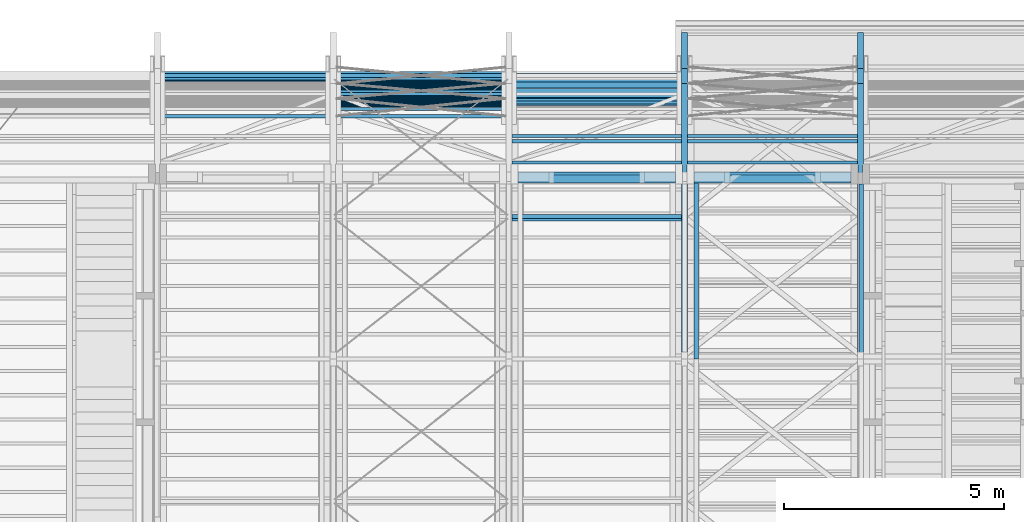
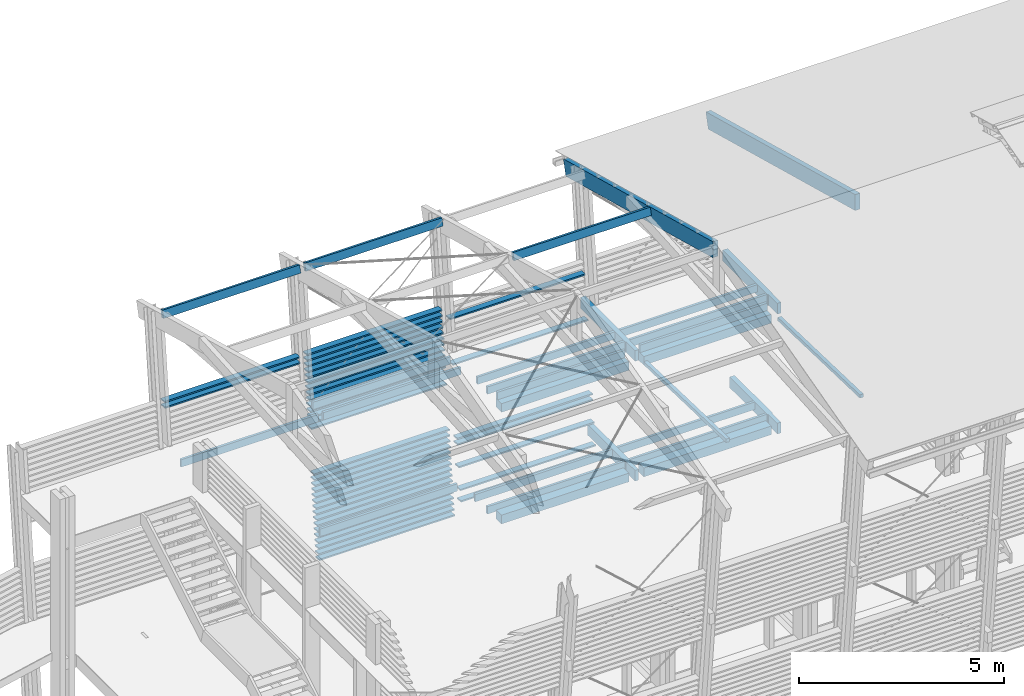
# One storey, part 13 of 48: 68 beams.
"""IFC2X3 building model written with IfcOpenShell, lengths in metres."""

from ifc_helpers import new_model, si_unit, direction, frame, origin_with_axes, place, context, subcontext, project, spatial, faceted_brep, material, element, save


model = new_model("IFC2X3")

# Units and contexts
model_context = context("Model", 3, precision=1e-06, world=origin_with_axes(), true_north=direction((0.0, 1.0, 0.0)))
body_context = subcontext(model_context, "Body", "Model", "MODEL_VIEW")
ifc_project = project(units=[si_unit("LENGTHUNIT", "METRE"), si_unit("AREAUNIT", "SQUARE_METRE"), si_unit("VOLUMEUNIT", "CUBIC_METRE"), si_unit("PLANEANGLEUNIT", "RADIAN")], contexts=[model_context])

# Site, building, storey
site_placement = place(None, origin_with_axes())
site = spatial("IfcSite", under=ifc_project, at=site_placement, CompositionType="ELEMENT")
building_placement = place(site_placement, origin_with_axes())
building = spatial("IfcBuilding", under=site, at=building_placement, Name="Building 1", CompositionType="ELEMENT")
storey_placement = place(building_placement, origin_with_axes())
storey = spatial("IfcBuildingStorey", under=building, at=storey_placement, Name="Storey 1", CompositionType="ELEMENT", Elevation=0.0)

# Beams
ifc_material_1 = material(Name="Moabi")
beam_1_placement = place(storey_placement, frame((33.3927439, -183.2886212, 4.0547563), z_axis=(0.0, -0.9945219, 0.1045285), x_axis=(-1.0, 0.0, 0.0)))
element("IfcBeam", 1, at=beam_1_placement, inside=storey, material=ifc_material_1, Name="garde corp", context=body_context, shape_type="Brep", body=[
    faceted_brep([(3.8048051, -0.02, 0.1), (3.8048051, 0.02, 0.1), (0.0, 0.02, 0.1), (0.0, -0.02, 0.1), (3.8048051, 0.02, -0.1), (0.0, 0.02, -0.1), (3.8048051, -0.02, -0.1), (0.0, -0.02, -0.1)], [[[0, 1, 2, 3]], [[1, 4, 5, 2]], [[4, 6, 7, 5]], [[6, 0, 3, 7]], [[1, 0, 6, 4]], [[7, 3, 2, 5]]]),
])
beam_2_placement = place(storey_placement, frame((37.3927439, -183.1715493, 5.1686208), z_axis=(0.0, -0.9945219, 0.1045285), x_axis=(-1.0, 0.0, 0.0)))
element("IfcBeam", 2, at=beam_2_placement, inside=storey, material=ifc_material_1, Name="garde corp", context=body_context, shape_type="Brep", body=[
    faceted_brep([(3.8048053, -0.02, 0.1), (3.8048053, 0.02, 0.1), (0.0, 0.02, 0.1), (0.0, -0.02, 0.1), (3.8048051, 0.02, -0.1), (0.0, 0.02, -0.1), (3.8048053, -0.02, -0.1), (0.0, -0.02, -0.1)], [[[0, 1, 2, 3]], [[1, 4, 5, 2]], [[4, 6, 7, 5]], [[6, 0, 3, 7]], [[1, 0, 6, 4]], [[7, 3, 2, 5]]]),
])
beam_3_placement = place(storey_placement, frame((37.3927439, -183.2384475, 4.5321268), z_axis=(0.0, -0.9945219, 0.1045285), x_axis=(-1.0, 0.0, 0.0)))
element("IfcBeam", 3, at=beam_3_placement, inside=storey, material=ifc_material_1, Name="garde corp", context=body_context, shape_type="Brep", body=[
    faceted_brep([(3.8047077, -0.02, 0.1), (3.8047077, 0.02, 0.1), (0.0, 0.02, 0.1), (0.0, -0.02, 0.1), (3.8047077, 0.02, -0.1), (0.0, 0.02, -0.1), (3.8047077, -0.02, -0.1), (0.0, -0.02, -0.1)], [[[0, 1, 2, 3]], [[1, 4, 5, 2]], [[4, 6, 7, 5]], [[6, 0, 3, 7]], [[1, 0, 6, 4]], [[7, 3, 2, 5]]]),
])
for number, where, z_axis, x_axis, name in (
    (4, (33.3927441, -182.920681, 7.5554733), (0.0, -0.9945219, 0.1045285), (-1.0, 0.0, 0.0), "garde corp"),
    (5, (33.3927441, -182.9875792, 6.9189793), (0.0, -0.9945219, 0.1045285), (-1.0, 0.0, 0.0), "garde corp"),
):
    element("IfcBeam", number, at=place(storey_placement, frame(where, z_axis=z_axis, x_axis=x_axis)), inside=storey, material=ifc_material_1, Name=name, context=body_context, shape_type="Brep", body=[
        faceted_brep([(3.806, -0.02, 0.1), (3.806, 0.02, 0.1), (0.0, 0.02, 0.1), (0.0, -0.02, 0.1), (3.806, 0.02, -0.1), (0.0, 0.02, -0.1), (3.806, -0.02, -0.1), (0.0, -0.02, -0.1)], [[[0, 1, 2, 3]], [[1, 4, 5, 2]], [[4, 6, 7, 5]], [[6, 0, 3, 7]], [[1, 0, 6, 4]], [[7, 3, 2, 5]]]),
    ])
beam_4_placement = place(storey_placement, frame((33.3927439, -183.221723, 4.6912503), z_axis=(0.0, -0.9945219, 0.1045285), x_axis=(-1.0, 0.0, 0.0)))
element("IfcBeam", 6, at=beam_4_placement, inside=storey, material=ifc_material_1, Name="garde corp", context=body_context, shape_type="Brep", body=[
    faceted_brep([(3.8047071, -0.02, 0.1), (3.8047079, 0.02, 0.1), (0.0, 0.02, 0.1), (0.0, -0.02, 0.1), (3.8047071, 0.02, -0.1), (0.0, 0.02, -0.1), (3.8047071, -0.02, -0.1), (0.0, -0.02, -0.1)], [[[0, 1, 2, 3]], [[1, 4, 5, 2]], [[4, 6, 7, 5]], [[6, 0, 3, 7]], [[1, 0, 6, 4]], [[7, 3, 2, 5]]]),
])
ifc_material_2 = material(Name="GL28h")
beam_5_placement = place(storey_placement, frame((33.5597433, -185.9913803, 12.4354756), z_axis=(0.0, 0.258819, 0.9659258), x_axis=(1.0, 0.0, 0.0)))
element("IfcBeam", 7, at=beam_5_placement, inside=storey, material=ifc_material_2, Name="Buton", context=body_context, shape_type="Brep", body=[
    faceted_brep([(3.8600004, -0.045, 0.11), (3.8600004, 0.045, 0.11), (0.0, 0.045, 0.11), (0.0, -0.045, 0.11), (3.8600004, -0.045, -0.11), (0.0, -0.045, -0.11), (3.8600004, 0.045, -0.11), (0.0, 0.045, -0.11)], [[[0, 1, 2, 3]], [[4, 0, 3, 5]], [[6, 4, 5, 7]], [[1, 6, 7, 2]], [[1, 0, 4, 6]], [[2, 7, 5, 3]]]),
])
beam_6_placement = place(storey_placement, frame((37.3927439, -183.3387948, 3.5773858), z_axis=(0.0, -0.9945219, 0.1045285), x_axis=(-1.0, 0.0, 0.0)))
element("IfcBeam", 8, at=beam_6_placement, inside=storey, material=ifc_material_1, Name="garde corp", context=body_context, shape_type="Brep", body=[
    faceted_brep([(3.8047077, -0.02, 0.1), (3.8047077, 0.02, 0.1), (0.0, 0.02, 0.1), (0.0, -0.02, 0.1), (3.8047077, 0.02, -0.1), (0.0, 0.02, -0.1), (3.8047077, -0.02, -0.1), (0.0, -0.02, -0.1)], [[[0, 1, 2, 3]], [[1, 4, 5, 2]], [[4, 6, 7, 5]], [[6, 0, 3, 7]], [[1, 0, 6, 4]], [[7, 3, 2, 5]]]),
])
beam_7_placement = place(storey_placement, frame((33.5597437, -184.1344693, 4.139), z_axis=(0.0, 0.0, 1.0), x_axis=(1.0, 0.0, 0.0)))
element("IfcBeam", 9, at=beam_7_placement, inside=storey, material=ifc_material_2, Name="Solive", context=body_context, shape_type="Brep", body=[
    faceted_brep([(3.86, 0.035, 0.11), (3.86, 0.035, -0.11), (0.0, 0.035, -0.11), (0.0, 0.035, 0.11), (3.86, -0.035, -0.11), (0.0, -0.035, -0.11), (3.86, -0.035, 0.11), (0.0, -0.035, 0.11)], [[[0, 1, 2, 3]], [[1, 4, 5, 2]], [[4, 6, 7, 5]], [[6, 0, 3, 7]], [[1, 0, 6, 4]], [[7, 3, 2, 5]]]),
])
beam_8_placement = place(storey_placement, frame((33.3927439, -183.3220703, 3.7365093), z_axis=(0.0, -0.9945219, 0.1045285), x_axis=(-1.0, 0.0, 0.0)))
element("IfcBeam", 10, at=beam_8_placement, inside=storey, material=ifc_material_1, Name="garde corp", context=body_context, shape_type="Brep", body=[
    faceted_brep([(3.8047073, -0.02, 0.1), (3.8047077, 0.02, 0.1), (0.0, 0.02, 0.1), (0.0, -0.02, 0.1), (3.8047077, 0.02, -0.1), (0.0, 0.02, -0.1), (3.8047077, -0.02, -0.1), (0.0, -0.02, -0.1)], [[[0, 1, 2, 3]], [[1, 4, 5, 2]], [[4, 6, 7, 5]], [[6, 0, 3, 7]], [[1, 0, 6, 4]], [[7, 3, 2, 5]]]),
])
beam_9_placement = place(storey_placement, frame((33.3927439, -183.2384475, 4.5321268), z_axis=(0.0, -0.9945219, 0.1045285), x_axis=(-1.0, 0.0, 0.0)))
element("IfcBeam", 11, at=beam_9_placement, inside=storey, material=ifc_material_1, Name="garde corp", context=body_context, shape_type="Brep", body=[
    faceted_brep([(3.8047077, -0.02, 0.1), (3.8047077, 0.02, 0.1), (0.0, 0.02, 0.1), (0.0, -0.02, 0.1), (3.8047077, 0.02, -0.1), (0.0, 0.02, -0.1), (3.8047077, -0.02, -0.1), (0.0, -0.02, -0.1)], [[[0, 1, 2, 3]], [[1, 4, 5, 2]], [[4, 6, 7, 5]], [[6, 0, 3, 7]], [[1, 0, 6, 4]], [[7, 3, 2, 5]]]),
])
beam_10_placement = place(storey_placement, frame((33.3927439, -183.2551721, 4.3730033), z_axis=(0.0, -0.9945219, 0.1045285), x_axis=(-1.0, 0.0, 0.0)))
element("IfcBeam", 12, at=beam_10_placement, inside=storey, material=ifc_material_1, Name="garde corp", context=body_context, shape_type="Brep", body=[
    faceted_brep([(3.8048051, -0.02, 0.1), (3.8048051, 0.02, 0.1), (0.0, 0.02, 0.1), (0.0, -0.02, 0.1), (3.8048051, 0.02, -0.1), (0.0, 0.02, -0.1), (3.8048051, -0.02, -0.1), (0.0, -0.02, -0.1)], [[[0, 1, 2, 3]], [[1, 4, 5, 2]], [[4, 6, 7, 5]], [[6, 0, 3, 7]], [[1, 0, 6, 4]], [[7, 3, 2, 5]]]),
])
beam_11_placement = place(storey_placement, frame((33.3927439, -183.1715493, 5.1686208), z_axis=(0.0, -0.9945219, 0.1045285), x_axis=(-1.0, 0.0, 0.0)))
element("IfcBeam", 13, at=beam_11_placement, inside=storey, material=ifc_material_1, Name="garde corp", context=body_context, shape_type="Brep", body=[
    faceted_brep([(3.8048053, -0.02, 0.1), (3.8048053, 0.02, 0.1), (0.0, 0.02, 0.1), (0.0, -0.02, 0.1), (3.8048051, 0.02, -0.1), (0.0, 0.02, -0.1), (3.8048053, -0.02, -0.1), (0.0, -0.02, -0.1)], [[[0, 1, 2, 3]], [[1, 4, 5, 2]], [[4, 6, 7, 5]], [[6, 0, 3, 7]], [[1, 0, 6, 4]], [[7, 3, 2, 5]]]),
])
beam_12_placement = place(storey_placement, frame((29.3927441, -182.7868846, 8.8284614), z_axis=(0.0, -0.9945219, 0.1045285), x_axis=(-1.0, 0.0, 0.0)))
element("IfcBeam", 14, at=beam_12_placement, inside=storey, material=ifc_material_1, Name="garde corp", context=body_context, shape_type="Brep", body=[
    faceted_brep([(3.806, -0.02, 0.1), (3.806, 0.02, 0.1), (0.0, 0.02, 0.1), (0.0, -0.02, 0.1), (3.806, 0.02, -0.1), (0.0, 0.02, -0.1), (3.806, -0.02, -0.1), (0.0, -0.02, -0.1)], [[[0, 1, 2, 3]], [[1, 4, 5, 2]], [[4, 6, 7, 5]], [[6, 0, 3, 7]], [[1, 0, 6, 4]], [[7, 3, 2, 5]]]),
])
beam_13_placement = place(storey_placement, frame((33.3927439, -183.3387948, 3.5773858), z_axis=(0.0, -0.9945219, 0.1045285), x_axis=(-1.0, 0.0, 0.0)))
element("IfcBeam", 15, at=beam_13_placement, inside=storey, material=ifc_material_1, Name="garde corp", context=body_context, shape_type="Brep", body=[
    faceted_brep([(3.8047077, -0.02, 0.1), (3.8047077, 0.02, 0.1), (0.0, 0.02, 0.1), (0.0, -0.02, 0.1), (3.8047077, 0.02, -0.1), (0.0, 0.02, -0.1), (3.8047077, -0.02, -0.1), (0.0, -0.02, -0.1)], [[[0, 1, 2, 3]], [[1, 4, 5, 2]], [[4, 6, 7, 5]], [[6, 0, 3, 7]], [[1, 0, 6, 4]], [[7, 3, 2, 5]]]),
])
beam_14_placement = place(storey_placement, frame((33.3927439, -183.3053457, 3.8956328), z_axis=(0.0, -0.9945219, 0.1045285), x_axis=(-1.0, 0.0, 0.0)))
element("IfcBeam", 16, at=beam_14_placement, inside=storey, material=ifc_material_1, Name="garde corp", context=body_context, shape_type="Brep", body=[
    faceted_brep([(3.8047073, -0.02, 0.1), (3.8047075, 0.02, 0.1), (0.0, 0.02, 0.1), (0.0, -0.02, 0.1), (3.8047077, 0.02, -0.1), (0.0, 0.02, -0.1), (3.8047077, -0.02, -0.1), (0.0, -0.02, -0.1)], [[[0, 1, 2, 3]], [[1, 4, 5, 2]], [[4, 6, 7, 5]], [[6, 0, 3, 7]], [[1, 0, 6, 4]], [[7, 3, 2, 5]]]),
])
beam_15_placement = place(storey_placement, frame((33.3927439, -183.1548247, 5.3277443), z_axis=(0.0, -0.9945219, 0.1045285), x_axis=(-1.0, 0.0, 0.0)))
element("IfcBeam", 17, at=beam_15_placement, inside=storey, material=ifc_material_1, Name="garde corp", context=body_context, shape_type="Brep", body=[
    faceted_brep([(3.8048053, -0.02, 0.1), (3.8048053, 0.02, 0.1), (0.0, 0.02, 0.1), (0.0, -0.02, 0.1), (3.8048051, 0.02, -0.1), (0.0, 0.02, -0.1), (3.8048053, -0.02, -0.1), (0.0, -0.02, -0.1)], [[[0, 1, 2, 3]], [[1, 4, 5, 2]], [[4, 6, 7, 5]], [[6, 0, 3, 7]], [[1, 0, 6, 4]], [[7, 3, 2, 5]]]),
])
beam_16_placement = place(storey_placement, frame((33.3927441, -182.7868846, 8.8284614), z_axis=(0.0, -0.9945219, 0.1045285), x_axis=(-1.0, 0.0, 0.0)))
element("IfcBeam", 18, at=beam_16_placement, inside=storey, material=ifc_material_1, Name="garde corp", context=body_context, shape_type="Brep", body=[
    faceted_brep([(3.806, -0.02, 0.1), (3.806, 0.02, 0.1), (0.0, 0.02, 0.1), (0.0, -0.02, 0.1), (3.806, 0.02, -0.1), (0.0, 0.02, -0.1), (3.806, -0.02, -0.1), (0.0, -0.02, -0.1)], [[[0, 1, 2, 3]], [[1, 4, 5, 2]], [[4, 6, 7, 5]], [[6, 0, 3, 7]], [[1, 0, 6, 4]], [[7, 3, 2, 5]]]),
])
beam_17_placement = place(storey_placement, frame((33.3927439, -183.3722439, 3.2591388), z_axis=(0.0, -0.9945219, 0.1045285), x_axis=(-1.0, 0.0, 0.0)))
element("IfcBeam", 19, at=beam_17_placement, inside=storey, material=ifc_material_1, Name="garde corp", context=body_context, shape_type="Brep", body=[
    faceted_brep([(3.8048051, -0.02, 0.1), (3.8048051, 0.02, 0.1), (0.0, 0.02, 0.1), (0.0, -0.02, 0.1), (3.8048051, 0.02, -0.1), (0.0, 0.02, -0.1), (3.8048051, -0.02, -0.1), (0.0, -0.02, -0.1)], [[[0, 1, 2, 3]], [[1, 4, 5, 2]], [[4, 6, 7, 5]], [[6, 0, 3, 7]], [[1, 0, 6, 4]], [[7, 3, 2, 5]]]),
])
beam_18_placement = place(storey_placement, frame((33.3927441, -182.8203337, 8.5102144), z_axis=(0.0, -0.9945219, 0.1045285), x_axis=(-1.0, 0.0, 0.0)))
element("IfcBeam", 20, at=beam_18_placement, inside=storey, material=ifc_material_1, Name="garde corp", context=body_context, shape_type="Brep", body=[
    faceted_brep([(3.806, -0.02, 0.1), (3.806, 0.02, 0.1), (0.0, 0.02, 0.1), (0.0, -0.02, 0.1), (3.806, 0.02, -0.1), (0.0, 0.02, -0.1), (3.806, -0.02, -0.1), (0.0, -0.02, -0.1)], [[[0, 1, 2, 3]], [[1, 4, 5, 2]], [[4, 6, 7, 5]], [[6, 0, 3, 7]], [[1, 0, 6, 4]], [[7, 3, 2, 5]]]),
])
beam_19_placement = place(storey_placement, frame((33.3927439, -183.2049984, 4.8503738), z_axis=(0.0, -0.9945219, 0.1045285), x_axis=(-1.0, 0.0, 0.0)))
element("IfcBeam", 21, at=beam_19_placement, inside=storey, material=ifc_material_1, Name="garde corp", context=body_context, shape_type="Brep", body=[
    faceted_brep([(3.8048053, -0.02, 0.1), (3.8048053, 0.02, 0.1), (0.0, 0.02, 0.1), (0.0, -0.02, 0.1), (3.8048051, 0.02, -0.1), (0.0, 0.02, -0.1), (3.8048053, -0.02, -0.1), (0.0, -0.02, -0.1)], [[[0, 1, 2, 3]], [[1, 4, 5, 2]], [[4, 6, 7, 5]], [[6, 0, 3, 7]], [[1, 0, 6, 4]], [[7, 3, 2, 5]]]),
])
beam_20_placement = place(storey_placement, frame((29.3927437, -182.77016, 8.9875849), z_axis=(0.0, -0.9945219, 0.1045285), x_axis=(-1.0, 0.0, 0.0)))
element("IfcBeam", 22, at=beam_20_placement, inside=storey, material=ifc_material_1, Name="garde corp", context=body_context, shape_type="Brep", body=[
    faceted_brep([(3.806, -0.02, 0.1), (3.806, 0.02, 0.1), (0.0, 0.02, 0.1), (0.0, -0.02, 0.1), (3.806, 0.02, -0.1), (0.0, 0.02, -0.1), (3.806, -0.02, -0.1), (0.0, -0.02, -0.1)], [[[0, 1, 2, 3]], [[1, 4, 5, 2]], [[4, 6, 7, 5]], [[6, 0, 3, 7]], [[1, 0, 6, 4]], [[7, 3, 2, 5]]]),
])
beam_21_placement = place(storey_placement, frame((33.3927439, -183.1882738, 5.0094973), z_axis=(0.0, -0.9945219, 0.1045285), x_axis=(-1.0, 0.0, 0.0)))
element("IfcBeam", 23, at=beam_21_placement, inside=storey, material=ifc_material_1, Name="garde corp", context=body_context, shape_type="Brep", body=[
    faceted_brep([(3.8047077, -0.02, 0.1), (3.8047077, 0.02, 0.1), (0.0, 0.02, 0.1), (0.0, -0.02, 0.1), (3.8047077, 0.02, -0.1), (0.0, 0.02, -0.1), (3.8047077, -0.02, -0.1), (0.0, -0.02, -0.1)], [[[0, 1, 2, 3]], [[1, 4, 5, 2]], [[4, 6, 7, 5]], [[6, 0, 3, 7]], [[1, 0, 6, 4]], [[7, 3, 2, 5]]]),
])
beam_22_placement = place(storey_placement, frame((33.3927439, -183.3555194, 3.4182623), z_axis=(0.0, -0.9945219, 0.1045285), x_axis=(-1.0, 0.0, 0.0)))
element("IfcBeam", 24, at=beam_22_placement, inside=storey, material=ifc_material_1, Name="garde corp", context=body_context, shape_type="Brep", body=[
    faceted_brep([(3.8047073, -0.02, 0.1), (3.8047077, 0.02, 0.1), (0.0, 0.02, 0.1), (0.0, -0.02, 0.1), (3.8047077, 0.02, -0.1), (0.0, 0.02, -0.1), (3.8047077, -0.02, -0.1), (0.0, -0.02, -0.1)], [[[0, 1, 2, 3]], [[1, 4, 5, 2]], [[4, 6, 7, 5]], [[6, 0, 3, 7]], [[1, 0, 6, 4]], [[7, 3, 2, 5]]]),
])
beam_23_placement = place(storey_placement, frame((37.3927439, -183.3053457, 3.8956328), z_axis=(0.0, -0.9945219, 0.1045285), x_axis=(-1.0, 0.0, 0.0)))
element("IfcBeam", 25, at=beam_23_placement, inside=storey, material=ifc_material_1, Name="garde corp", context=body_context, shape_type="Brep", body=[
    faceted_brep([(3.8047073, -0.02, 0.1), (3.8047075, 0.02, 0.1), (0.0, 0.02, 0.1), (0.0, -0.02, 0.1), (3.8047077, 0.02, -0.1), (0.0, 0.02, -0.1), (3.8047077, -0.02, -0.1), (0.0, -0.02, -0.1)], [[[0, 1, 2, 3]], [[1, 4, 5, 2]], [[4, 6, 7, 5]], [[6, 0, 3, 7]], [[1, 0, 6, 4]], [[7, 3, 2, 5]]]),
])
for number, where, z_axis, x_axis, name in (
    (26, (37.3927437, -182.8036091, 8.6693379), (0.0, -0.9945219, 0.1045285), (-1.0, 0.0, 0.0), "garde corp"),
    (27, (37.3927441, -182.9374055, 7.3963498), (0.0, -0.9945219, 0.1045285), (-1.0, 0.0, 0.0), "garde corp"),
):
    element("IfcBeam", number, at=place(storey_placement, frame(where, z_axis=z_axis, x_axis=x_axis)), inside=storey, material=ifc_material_1, Name=name, context=body_context, shape_type="Brep", body=[
        faceted_brep([(3.806, -0.02, 0.1), (3.806, 0.02, 0.1), (0.0, 0.02, 0.1), (0.0, -0.02, 0.1), (3.806, 0.02, -0.1), (0.0, 0.02, -0.1), (3.806, -0.02, -0.1), (0.0, -0.02, -0.1)], [[[0, 1, 2, 3]], [[1, 4, 5, 2]], [[4, 6, 7, 5]], [[6, 0, 3, 7]], [[1, 0, 6, 4]], [[7, 3, 2, 5]]]),
    ])
beam_24_placement = place(storey_placement, frame((37.3927439, -183.1548247, 5.3277443), z_axis=(0.0, -0.9945219, 0.1045285), x_axis=(-1.0, 0.0, 0.0)))
element("IfcBeam", 28, at=beam_24_placement, inside=storey, material=ifc_material_1, Name="garde corp", context=body_context, shape_type="Brep", body=[
    faceted_brep([(3.8048053, -0.02, 0.1), (3.8048053, 0.02, 0.1), (0.0, 0.02, 0.1), (0.0, -0.02, 0.1), (3.8048051, 0.02, -0.1), (0.0, 0.02, -0.1), (3.8048053, -0.02, -0.1), (0.0, -0.02, -0.1)], [[[0, 1, 2, 3]], [[1, 4, 5, 2]], [[4, 6, 7, 5]], [[6, 0, 3, 7]], [[1, 0, 6, 4]], [[7, 3, 2, 5]]]),
])
beam_25_placement = place(storey_placement, frame((37.6997437, -185.0764881, 7.4), z_axis=(0.0, 0.0, 1.0), x_axis=(1.0, 0.0, 0.0)))
element("IfcBeam", 29, at=beam_25_placement, inside=storey, material=ifc_material_2, Name="Buton", context=body_context, shape_type="Brep", body=[
    faceted_brep([(0.0, 0.13, 0.13), (0.0, -0.13, 0.13), (3.58, -0.13, 0.13), (3.58, 0.13, 0.13), (0.0, -0.13, -0.13), (3.58, -0.13, -0.13), (0.0, 0.13, -0.13), (3.58, 0.13, -0.13)], [[[0, 1, 2, 3]], [[2, 1, 4, 5]], [[1, 0, 6, 4]], [[5, 4, 6, 7]], [[0, 3, 7, 6]], [[3, 2, 5, 7]]]),
])
beam_26_placement = place(storey_placement, frame((33.3927439, -183.1213756, 5.6459913), z_axis=(0.0, -0.9945219, 0.1045285), x_axis=(-1.0, 0.0, 0.0)))
element("IfcBeam", 30, at=beam_26_placement, inside=storey, material=ifc_material_1, Name="garde corp", context=body_context, shape_type="Brep", body=[
    faceted_brep([(3.8048053, -0.02, 0.1), (3.8048053, 0.02, 0.1), (0.0, 0.02, 0.1), (0.0, -0.02, 0.1), (3.8048051, 0.02, -0.1), (0.0, 0.02, -0.1), (3.8048053, -0.02, -0.1), (0.0, -0.02, -0.1)], [[[0, 1, 2, 3]], [[1, 4, 5, 2]], [[4, 6, 7, 5]], [[6, 0, 3, 7]], [[1, 0, 6, 4]], [[7, 3, 2, 5]]]),
])
for number, where, z_axis, x_axis, name in (
    (31, (33.3927441, -182.8370582, 8.3510909), (0.0, -0.9945219, 0.1045285), (-1.0, 0.0, 0.0), "garde corp"),
    (32, (33.3927441, -182.9708546, 7.0781028), (0.0, -0.9945219, 0.1045285), (-1.0, 0.0, 0.0), "garde corp"),
):
    element("IfcBeam", number, at=place(storey_placement, frame(where, z_axis=z_axis, x_axis=x_axis)), inside=storey, material=ifc_material_1, Name=name, context=body_context, shape_type="Brep", body=[
        faceted_brep([(3.806, -0.02, 0.1), (3.806, 0.02, 0.1), (0.0, 0.02, 0.1), (0.0, -0.02, 0.1), (3.806, 0.02, -0.1), (0.0, 0.02, -0.1), (3.806, -0.02, -0.1), (0.0, -0.02, -0.1)], [[[0, 1, 2, 3]], [[1, 4, 5, 2]], [[4, 6, 7, 5]], [[6, 0, 3, 7]], [[1, 0, 6, 4]], [[7, 3, 2, 5]]]),
    ])
beam_27_placement = place(storey_placement, frame((33.3927439, -183.2718966, 4.2138798), z_axis=(0.0, -0.9945219, 0.1045285), x_axis=(-1.0, 0.0, 0.0)))
element("IfcBeam", 33, at=beam_27_placement, inside=storey, material=ifc_material_1, Name="garde corp", context=body_context, shape_type="Brep", body=[
    faceted_brep([(3.8048051, -0.02, 0.1), (3.8048051, 0.02, 0.1), (0.0, 0.02, 0.1), (0.0, -0.02, 0.1), (3.8048051, 0.02, -0.1), (0.0, 0.02, -0.1), (3.8048051, -0.02, -0.1), (0.0, -0.02, -0.1)], [[[0, 1, 2, 3]], [[1, 4, 5, 2]], [[4, 6, 7, 5]], [[6, 0, 3, 7]], [[1, 0, 6, 4]], [[7, 3, 2, 5]]]),
])
beam_28_placement = place(storey_placement, frame((33.3927441, -182.9374055, 7.3963498), z_axis=(0.0, -0.9945219, 0.1045285), x_axis=(-1.0, 0.0, 0.0)))
element("IfcBeam", 34, at=beam_28_placement, inside=storey, material=ifc_material_1, Name="garde corp", context=body_context, shape_type="Brep", body=[
    faceted_brep([(3.806, -0.02, 0.1), (3.806, 0.02, 0.1), (0.0, 0.02, 0.1), (0.0, -0.02, 0.1), (3.806, 0.02, -0.1), (0.0, 0.02, -0.1), (3.806, -0.02, -0.1), (0.0, -0.02, -0.1)], [[[0, 1, 2, 3]], [[1, 4, 5, 2]], [[4, 6, 7, 5]], [[6, 0, 3, 7]], [[1, 0, 6, 4]], [[7, 3, 2, 5]]]),
])
beam_29_placement = place(storey_placement, frame((33.3927439, -183.1381002, 5.4868678), z_axis=(0.0, -0.9945219, 0.1045285), x_axis=(-1.0, 0.0, 0.0)))
element("IfcBeam", 35, at=beam_29_placement, inside=storey, material=ifc_material_1, Name="garde corp", context=body_context, shape_type="Brep", body=[
    faceted_brep([(3.8047071, -0.02, 0.1), (3.8047079, 0.02, 0.1), (0.0, 0.02, 0.1), (0.0, -0.02, 0.1), (3.8047077, 0.02, -0.1), (0.0, 0.02, -0.1), (3.8047071, -0.02, -0.1), (0.0, -0.02, -0.1)], [[[0, 1, 2, 3]], [[1, 4, 5, 2]], [[4, 6, 7, 5]], [[6, 0, 3, 7]], [[1, 0, 6, 4]], [[7, 3, 2, 5]]]),
])
for number, where, z_axis, x_axis, name in (
    (36, (33.3927441, -182.9541301, 7.2372263), (0.0, -0.9945219, 0.1045285), (-1.0, 0.0, 0.0), "garde corp"),
    (37, (33.3927437, -182.77016, 8.9875849), (0.0, -0.9945219, 0.1045285), (-1.0, 0.0, 0.0), "garde corp"),
    (38, (33.3927441, -182.8537828, 8.1919674), (0.0, -0.9945219, 0.1045285), (-1.0, 0.0, 0.0), "garde corp"),
    (39, (33.3927437, -182.8036091, 8.6693379), (0.0, -0.9945219, 0.1045285), (-1.0, 0.0, 0.0), "garde corp"),
    (40, (33.3927437, -182.8705073, 8.0328439), (0.0, -0.9945219, 0.1045285), (-1.0, 0.0, 0.0), "garde corp"),
    (41, (33.3927441, -182.8872319, 7.8737203), (0.0, -0.9945219, 0.1045285), (-1.0, 0.0, 0.0), "garde corp"),
):
    element("IfcBeam", number, at=place(storey_placement, frame(where, z_axis=z_axis, x_axis=x_axis)), inside=storey, material=ifc_material_1, Name=name, context=body_context, shape_type="Brep", body=[
        faceted_brep([(3.806, -0.02, 0.1), (3.806, 0.02, 0.1), (0.0, 0.02, 0.1), (0.0, -0.02, 0.1), (3.806, 0.02, -0.1), (0.0, 0.02, -0.1), (3.806, -0.02, -0.1), (0.0, -0.02, -0.1)], [[[0, 1, 2, 3]], [[1, 4, 5, 2]], [[4, 6, 7, 5]], [[6, 0, 3, 7]], [[1, 0, 6, 4]], [[7, 3, 2, 5]]]),
    ])
beam_30_placement = place(storey_placement, frame((37.5597437, -184.2514881, 7.699), z_axis=(0.0, 0.0, 1.0), x_axis=(1.0, 0.0, 0.0)))
element("IfcBeam", 42, at=beam_30_placement, inside=storey, material=ifc_material_2, Name="Solive", context=body_context, shape_type="Brep", body=[
    faceted_brep([(3.86, 0.035, 0.11), (3.86, 0.035, -0.11), (0.0, 0.035, -0.11), (0.0, 0.035, 0.11), (3.86, -0.035, -0.11), (0.0, -0.035, -0.11), (3.86, -0.035, 0.11), (0.0, -0.035, 0.11)], [[[0, 1, 2, 3]], [[1, 4, 5, 2]], [[4, 6, 7, 5]], [[6, 0, 3, 7]], [[1, 0, 6, 4]], [[7, 3, 2, 5]]]),
])
beam_31_placement = place(storey_placement, frame((33.3927441, -182.9039564, 7.7145968), z_axis=(0.0, -0.9945219, 0.1045285), x_axis=(-1.0, 0.0, 0.0)))
element("IfcBeam", 43, at=beam_31_placement, inside=storey, material=ifc_material_1, Name="garde corp", context=body_context, shape_type="Brep", body=[
    faceted_brep([(3.806, -0.02, 0.1), (3.806, 0.02, 0.1), (0.0, 0.02, 0.1), (0.0, -0.02, 0.1), (3.806, 0.02, -0.1), (0.0, 0.02, -0.1), (3.806, -0.02, -0.1), (0.0, -0.02, -0.1)], [[[0, 1, 2, 3]], [[1, 4, 5, 2]], [[4, 6, 7, 5]], [[6, 0, 3, 7]], [[1, 0, 6, 4]], [[7, 3, 2, 5]]]),
])
for number, where, z_axis, x_axis in (
    (44, (29.5597437, -183.1714881, 7.699), (0.0, 0.0, 1.0), (1.0, 0.0, 0.0)),
    (45, (29.5597437, -183.5174506, 4.139), (0.0, 0.0, 1.0), (1.0, 0.0, 0.0)),
    (46, (33.5597437, -184.2514881, 7.699), (0.0, 0.0, 1.0), (1.0, 0.0, 0.0)),
):
    element("IfcBeam", number, at=place(storey_placement, frame(where, z_axis=z_axis, x_axis=x_axis)), inside=storey, material=ifc_material_2, Name="Solive", context=body_context, shape_type="Brep", body=[
        faceted_brep([(3.86, 0.035, 0.11), (3.86, 0.035, -0.11), (0.0, 0.035, -0.11), (0.0, 0.035, 0.11), (3.86, -0.035, -0.11), (0.0, -0.035, -0.11), (3.86, -0.035, 0.11), (0.0, -0.035, 0.11)], [[[0, 1, 2, 3]], [[1, 4, 5, 2]], [[4, 6, 7, 5]], [[6, 0, 3, 7]], [[1, 0, 6, 4]], [[7, 3, 2, 5]]]),
    ])
beam_32_placement = place(storey_placement, frame((37.5596481, -184.7314881, 7.699), z_axis=(0.0, 0.0, 1.0), x_axis=(1.0, 0.0, 0.0)))
element("IfcBeam", 47, at=beam_32_placement, inside=storey, material=ifc_material_2, Name="Solive", context=body_context, shape_type="Brep", body=[
    faceted_brep([(3.8600004, -0.035, -0.11), (3.8600956, 0.035, -0.11), (3.8600956, 0.035, 0.11), (3.8600004, -0.035, 0.11), (0.0, 0.035, -0.11), (0.0, 0.035, 0.11), (0.0, -0.035, -0.11), (0.0, -0.035, 0.11)], [[[0, 1, 2, 3]], [[2, 1, 4, 5]], [[1, 0, 6, 4]], [[0, 3, 7, 6]], [[3, 2, 5, 7]], [[7, 5, 4, 6]]]),
])
beam_33_placement = place(storey_placement, frame((29.5597433, -183.6814881, 7.699), z_axis=(0.0, 0.0, 1.0), x_axis=(1.0, 0.0, 0.0)))
element("IfcBeam", 48, at=beam_33_placement, inside=storey, material=ifc_material_2, Name="Solive", context=body_context, shape_type="Brep", body=[
    faceted_brep([(3.8600004, -0.035, -0.11), (3.8600004, 0.035, -0.11), (3.8600004, 0.035, 0.11), (3.8600004, -0.035, 0.11), (0.0, 0.035, -0.11), (0.0, 0.035, 0.11), (0.0, -0.035, -0.11), (0.0, -0.035, 0.11)], [[[0, 1, 2, 3]], [[2, 1, 4, 5]], [[1, 0, 6, 4]], [[0, 3, 7, 6]], [[3, 2, 5, 7]], [[7, 5, 4, 6]]]),
])
for number, where, z_axis, x_axis in (
    (49, (37.6997437, -185.0764881, 4.085), (0.0, 0.0, 1.0), (1.0, 0.0, 0.0)),
    (50, (33.6997437, -185.0764881, 4.085), (0.0, 0.0, 1.0), (1.0, 0.0, 0.0)),
):
    element("IfcBeam", number, at=place(storey_placement, frame(where, z_axis=z_axis, x_axis=x_axis)), inside=storey, material=ifc_material_2, Name="Buton", context=body_context, shape_type="Brep", body=[
        faceted_brep([(0.0, 0.13, 0.13), (0.0, -0.13, 0.13), (3.58, -0.13, 0.13), (3.58, 0.13, 0.13), (0.0, -0.13, -0.13), (3.58, -0.13, -0.13), (0.0, 0.13, -0.13), (3.58, 0.13, -0.13)], [[[0, 1, 2, 3]], [[2, 1, 4, 5]], [[1, 0, 6, 4]], [[5, 4, 6, 7]], [[0, 3, 7, 6]], [[3, 2, 5, 7]]]),
    ])
beam_34_placement = place(storey_placement, frame((37.7497437, -189.2095691, 7.4500014), z_axis=(0.0, 0.0299865, 0.9995503), x_axis=(0.0, 0.9995503, -0.0299865)))
element("IfcBeam", 51, at=beam_34_placement, inside=storey, material=ifc_material_2, Name="Sous-glace", context=body_context, shape_type="Brep", body=[
    faceted_brep([(0.0, -0.05, 0.05), (0.003, -0.05, -0.05), (4.006373, -0.05, -0.05), (4.003373, -0.05, 0.05), (4.003373, 0.05, 0.05), (0.0, 0.05, 0.05), (0.003, 0.05, -0.05), (4.006373, 0.05, -0.05)], [[[0, 1, 2, 3]], [[3, 4, 5, 0]], [[6, 5, 4, 7]], [[1, 6, 7, 2]], [[5, 6, 1, 0]], [[2, 7, 4, 3]]]),
])
beam_35_placement = place(storey_placement, frame((33.6997437, -184.9814881, 7.64), z_axis=(0.0, 0.0, 1.0), x_axis=(1.0, 0.0, 0.0)))
element("IfcBeam", 52, at=beam_35_placement, inside=storey, material=ifc_material_2, Name="Rive", context=body_context, shape_type="Brep", body=[
    faceted_brep([(0.0, -0.035, -0.11), (0.0, -0.035, 0.11), (0.0, 0.035, 0.11), (0.0, 0.035, -0.11), (3.58, 0.035, -0.11), (3.58, -0.035, -0.11), (3.58, -0.035, 0.11), (3.58, 0.035, 0.11)], [[[0, 1, 2, 3]], [[0, 3, 4, 5]], [[1, 0, 5, 6]], [[5, 4, 7, 6]], [[3, 2, 7, 4]], [[2, 1, 6, 7]]]),
])
beam_36_placement = place(storey_placement, frame((41.5097437, -189.2095691, 7.4500014), z_axis=(0.0, 0.0299865, 0.9995503), x_axis=(0.0, 0.9995503, -0.0299865)))
element("IfcBeam", 53, at=beam_36_placement, inside=storey, material=ifc_material_2, Name="Sous-glace", context=body_context, shape_type="Brep", body=[
    faceted_brep([(0.0, -0.05, 0.05), (0.003, -0.05, -0.05), (4.006373, -0.05, -0.05), (4.003373, -0.05, 0.05), (4.003373, 0.05, 0.05), (0.0, 0.05, 0.05), (0.003, 0.05, -0.05), (4.006373, 0.05, -0.05)], [[[0, 1, 2, 3]], [[3, 4, 5, 0]], [[6, 5, 4, 7]], [[1, 6, 7, 2]], [[5, 6, 1, 0]], [[2, 7, 4, 3]]]),
])
beam_37_placement = place(storey_placement, frame((33.6997437, -185.0764881, 7.4), z_axis=(0.0, 0.0, 1.0), x_axis=(1.0, 0.0, 0.0)))
element("IfcBeam", 54, at=beam_37_placement, inside=storey, material=ifc_material_2, Name="Buton", context=body_context, shape_type="Brep", body=[
    faceted_brep([(0.0, 0.13, 0.13), (0.0, -0.13, 0.13), (3.58, -0.13, 0.13), (3.58, 0.13, 0.13), (0.0, -0.13, -0.13), (3.58, -0.13, -0.13), (0.0, 0.13, -0.13), (3.58, 0.13, -0.13)], [[[0, 1, 2, 3]], [[2, 1, 4, 5]], [[1, 0, 6, 4]], [[5, 4, 6, 7]], [[0, 3, 7, 6]], [[3, 2, 5, 7]]]),
])
beam_38_placement = place(storey_placement, frame((37.6997437, -184.9814881, 7.64), z_axis=(0.0, 0.0, 1.0), x_axis=(1.0, 0.0, 0.0)))
element("IfcBeam", 55, at=beam_38_placement, inside=storey, material=ifc_material_2, Name="Rive", context=body_context, shape_type="Brep", body=[
    faceted_brep([(0.0, -0.035, -0.11), (0.0, -0.035, 0.11), (0.0, 0.035, 0.11), (0.0, 0.035, -0.11), (3.58, 0.035, -0.11), (3.58, -0.035, -0.11), (3.58, -0.035, 0.11), (3.58, 0.035, 0.11)], [[[0, 1, 2, 3]], [[0, 3, 4, 5]], [[1, 0, 5, 6]], [[5, 4, 7, 6]], [[3, 2, 7, 4]], [[2, 1, 6, 7]]]),
])
for number, where, z_axis, x_axis in (
    (56, (33.5597437, -184.7314881, 4.139), (0.0, 0.0, 1.0), (1.0, 0.0, 0.0)),
    (57, (37.5597437, -184.7314881, 4.139), (0.0, 0.0, 1.0), (1.0, 0.0, 0.0)),
):
    element("IfcBeam", number, at=place(storey_placement, frame(where, z_axis=z_axis, x_axis=x_axis)), inside=storey, material=ifc_material_2, Name="Solive", context=body_context, shape_type="Brep", body=[
        faceted_brep([(3.86, 0.035, 0.11), (3.86, 0.035, -0.11), (0.0, 0.035, -0.11), (0.0, 0.035, 0.11), (3.86, -0.035, -0.11), (0.0, -0.035, -0.11), (3.86, -0.035, 0.11), (0.0, -0.035, 0.11)], [[[0, 1, 2, 3]], [[1, 4, 5, 2]], [[4, 6, 7, 5]], [[6, 0, 3, 7]], [[1, 0, 6, 4]], [[7, 3, 2, 5]]]),
    ])
beam_39_placement = place(storey_placement, frame((29.5597433, -182.7827541, 11.5757268), z_axis=(0.0, 0.258819, 0.9659258), x_axis=(1.0, 0.0, 0.0)))
element("IfcBeam", 58, at=beam_39_placement, inside=storey, material=ifc_material_2, Name="Buton", context=body_context, shape_type="Brep", body=[
    faceted_brep([(3.8600004, -0.045, 0.11), (3.8600004, 0.045, 0.11), (0.0, 0.045, 0.11), (0.0, -0.045, 0.11), (3.8600004, -0.045, -0.11), (0.0, -0.045, -0.11), (3.8600004, 0.045, -0.11), (0.0, 0.045, -0.11)], [[[0, 1, 2, 3]], [[4, 0, 3, 5]], [[6, 4, 5, 7]], [[1, 6, 7, 2]], [[1, 0, 4, 6]], [[2, 7, 5, 3]]]),
])
beam_40_placement = place(storey_placement, frame((41.4897437, -185.2264881, 4.089), z_axis=(0.0, 0.0, 1.0), x_axis=(0.0, 1.0, 0.0)))
element("IfcBeam", 59, at=beam_40_placement, inside=storey, material=ifc_material_2, Name="Sommier Coursive", context=body_context, shape_type="Brep", body=[
    faceted_brep([(0.0, 0.05, 0.16), (0.44, 0.05, 0.16), (0.44, 0.05, -0.16), (0.0, 0.05, -0.16), (0.44, 0.07, 0.16), (0.44, 0.07, -0.16), (0.0, -0.05, 0.16), (0.44, -0.05, 0.16), (0.44, -0.07, 0.16), (2.2900003, -0.07, 0.16), (2.2900003, 0.07, 0.16), (0.0, -0.05, -0.16), (0.44, -0.05, -0.16), (0.44, -0.07, -0.16), (2.2900003, 0.07, -0.16), (2.2900003, -0.07, -0.16)], [[[0, 1, 2, 3]], [[1, 4, 5, 2]], [[4, 1, 0, 6, 7, 8, 9, 10]], [[0, 3, 11, 6]], [[11, 12, 7, 6]], [[12, 13, 8, 7]], [[2, 5, 14, 15, 13, 12, 11, 3]], [[8, 13, 15, 9]], [[5, 4, 10, 14]], [[10, 9, 15, 14]]]),
])
beam_41_placement = place(storey_placement, frame((25.5597433, -182.7827541, 11.5757268), z_axis=(0.0, 0.258819, 0.9659258), x_axis=(1.0, 0.0, 0.0)))
element("IfcBeam", 60, at=beam_41_placement, inside=storey, material=ifc_material_2, Name="Buton", context=body_context, shape_type="Brep", body=[
    faceted_brep([(3.8600004, -0.045, 0.11), (3.8600004, 0.045, 0.11), (0.0, 0.045, 0.11), (0.0, -0.045, 0.11), (3.8600004, -0.045, -0.11), (0.0, -0.045, -0.11), (3.8600004, 0.045, -0.11), (0.0, 0.045, -0.11)], [[[0, 1, 2, 3]], [[4, 0, 3, 5]], [[6, 4, 5, 7]], [[1, 6, 7, 2]], [[1, 0, 4, 6]], [[2, 7, 5, 3]]]),
])
beam_42_placement = place(storey_placement, frame((37.5597437, -184.1344693, 4.139), z_axis=(0.0, 0.0, 1.0), x_axis=(1.0, 0.0, 0.0)))
element("IfcBeam", 61, at=beam_42_placement, inside=storey, material=ifc_material_2, Name="Solive", context=body_context, shape_type="Brep", body=[
    faceted_brep([(3.86, 0.035, 0.11), (3.86, 0.035, -0.11), (0.0, 0.035, -0.11), (0.0, 0.035, 0.11), (3.86, -0.035, -0.11), (0.0, -0.035, -0.11), (3.86, -0.035, 0.11), (0.0, -0.035, 0.11)], [[[0, 1, 2, 3]], [[1, 4, 5, 2]], [[4, 6, 7, 5]], [[6, 0, 3, 7]], [[1, 0, 6, 4]], [[7, 3, 2, 5]]]),
])
beam_43_placement = place(storey_placement, frame((41.4897437, -181.8355309, 11.197686), z_axis=(0.0, 0.258819, 0.9659258), x_axis=(0.0, -0.9659258, 0.258819)))
element("IfcBeam", 62, at=beam_43_placement, inside=storey, material=ifc_material_2, Name="Arbalétrier", context=body_context, shape_type="Brep", body=[
    faceted_brep([(7.4053414, 0.07, -0.23), (7.5285981, 0.07, 0.23), (7.5285981, -0.07, 0.23), (7.4053414, -0.07, -0.23), (0.0, 0.07, 0.23), (0.0, -0.07, 0.23), (0.0, 0.07, -0.23), (0.0, -0.07, -0.23)], [[[0, 1, 2, 3]], [[2, 1, 4, 5]], [[1, 0, 6, 4]], [[0, 3, 7, 6]], [[3, 2, 5, 7]], [[6, 7, 5, 4]]]),
])
for number, where, z_axis, x_axis in (
    (63, (41.4897437, -185.2264881, 7.649), (0.0, 0.0, 1.0), (0.0, 1.0, 0.0)),
    (64, (37.4897437, -185.2264881, 7.649), (0.0, 0.0, 1.0), (0.0, 1.0, 0.0)),
):
    element("IfcBeam", number, at=place(storey_placement, frame(where, z_axis=z_axis, x_axis=x_axis)), inside=storey, material=ifc_material_2, Name="Sommier Coursive", context=body_context, shape_type="Brep", body=[
        faceted_brep([(0.0, -0.05, -0.16), (0.44, -0.05, -0.16), (0.44, -0.05, 0.16), (0.0, -0.05, 0.16), (0.44, -0.07, -0.16), (0.44, -0.07, 0.16), (0.0, 0.05, 0.16), (0.0, 0.05, -0.16), (2.6285375, -0.07, 0.16), (2.6285375, 0.07, 0.16), (0.44, 0.07, 0.16), (0.44, 0.05, 0.16), (0.44, 0.05, -0.16), (0.44, 0.07, -0.16), (2.6285375, -0.07, -0.16), (2.6285375, 0.07, -0.16)], [[[0, 1, 2, 3]], [[1, 4, 5, 2]], [[0, 3, 6, 7]], [[3, 2, 5, 8, 9, 10, 11, 6]], [[6, 11, 12, 7]], [[11, 10, 13, 12]], [[5, 4, 14, 8]], [[1, 0, 7, 12, 13, 15, 14, 4]], [[13, 10, 9, 15]], [[9, 8, 14, 15]]]),
    ])
beam_44_placement = place(storey_placement, frame((37.4897437, -185.2264881, 4.089), z_axis=(0.0, 0.0, 1.0), x_axis=(0.0, 1.0, 0.0)))
element("IfcBeam", 65, at=beam_44_placement, inside=storey, material=ifc_material_2, Name="Sommier Coursive", context=body_context, shape_type="Brep", body=[
    faceted_brep([(0.0, 0.05, 0.16), (0.44, 0.05, 0.16), (0.44, 0.05, -0.16), (0.0, 0.05, -0.16), (0.44, 0.07, 0.16), (0.44, 0.07, -0.16), (0.0, -0.05, 0.16), (0.44, -0.05, 0.16), (0.44, -0.07, 0.16), (2.2900003, -0.07, 0.16), (2.2900003, 0.07, 0.16), (0.0, -0.05, -0.16), (0.44, -0.05, -0.16), (0.44, -0.07, -0.16), (2.2900003, 0.07, -0.16), (2.2900003, -0.07, -0.16)], [[[0, 1, 2, 3]], [[1, 4, 5, 2]], [[4, 1, 0, 6, 7, 8, 9, 10]], [[0, 3, 11, 6]], [[11, 12, 7, 6]], [[12, 13, 8, 7]], [[2, 5, 14, 15, 13, 12, 11, 3]], [[8, 13, 15, 9]], [[5, 4, 10, 14]], [[10, 9, 15, 14]]]),
])
beam_45_placement = place(storey_placement, frame((37.4897437, -181.8355309, 11.197686), z_axis=(0.0, 0.258819, 0.9659258), x_axis=(0.0, -0.9659258, 0.258819)))
element("IfcBeam", 66, at=beam_45_placement, inside=storey, material=ifc_material_2, Name="Arbalétrier", context=body_context, shape_type="Brep", body=[
    faceted_brep([(7.4053414, 0.07, -0.23), (7.5285981, 0.07, 0.23), (7.5285981, -0.07, 0.23), (7.4053414, -0.07, -0.23), (0.0, 0.07, 0.23), (0.0, -0.07, 0.23), (0.0, 0.07, -0.23), (0.0, -0.07, -0.23)], [[[0, 1, 2, 3]], [[2, 1, 4, 5]], [[1, 0, 6, 4]], [[0, 3, 7, 6]], [[3, 2, 5, 7]], [[6, 7, 5, 4]]]),
])
beam_46_placement = place(storey_placement, frame((33.5596481, -184.7314881, 7.699), z_axis=(0.0, 0.0, 1.0), x_axis=(1.0, 0.0, 0.0)))
element("IfcBeam", 67, at=beam_46_placement, inside=storey, material=ifc_material_2, Name="Solive", context=body_context, shape_type="Brep", body=[
    faceted_brep([(3.8600004, -0.035, -0.11), (3.8600956, 0.035, -0.11), (3.8600956, 0.035, 0.11), (3.8600004, -0.035, 0.11), (0.0, 0.035, -0.11), (0.0, 0.035, 0.11), (0.0, -0.035, -0.11), (0.0, -0.035, 0.11)], [[[0, 1, 2, 3]], [[2, 1, 4, 5]], [[1, 0, 6, 4]], [[0, 3, 7, 6]], [[3, 2, 5, 7]], [[7, 5, 4, 6]]]),
])
beam_47_placement = place(storey_placement, frame((25.5598389, -183.6814881, 7.699), z_axis=(0.0, 0.0, 1.0), x_axis=(1.0, 0.0, 0.0)))
element("IfcBeam", 68, at=beam_47_placement, inside=storey, material=ifc_material_2, Name="Solive", context=body_context, shape_type="Brep", body=[
    faceted_brep([(3.8599996, -0.035, -0.11), (3.8599996, 0.035, -0.11), (3.8599996, 0.035, 0.11), (3.8599996, -0.035, 0.11), (0.0, 0.035, -0.11), (0.0, 0.035, 0.11), (0.0, -0.035, -0.11), (0.0, -0.035, 0.11)], [[[0, 1, 2, 3]], [[2, 1, 4, 5]], [[1, 0, 6, 4]], [[0, 3, 7, 6]], [[3, 2, 5, 7]], [[7, 5, 4, 6]]]),
])

save(model, "model.ifc")
